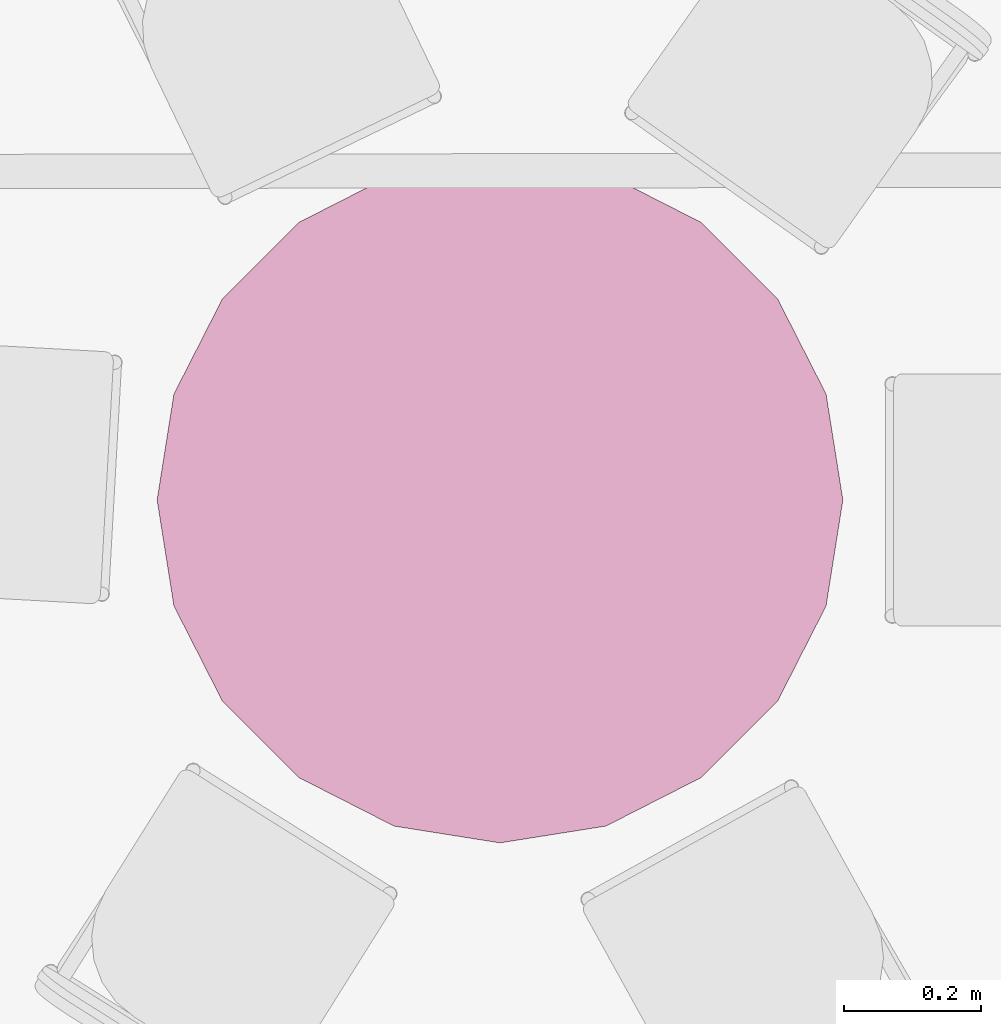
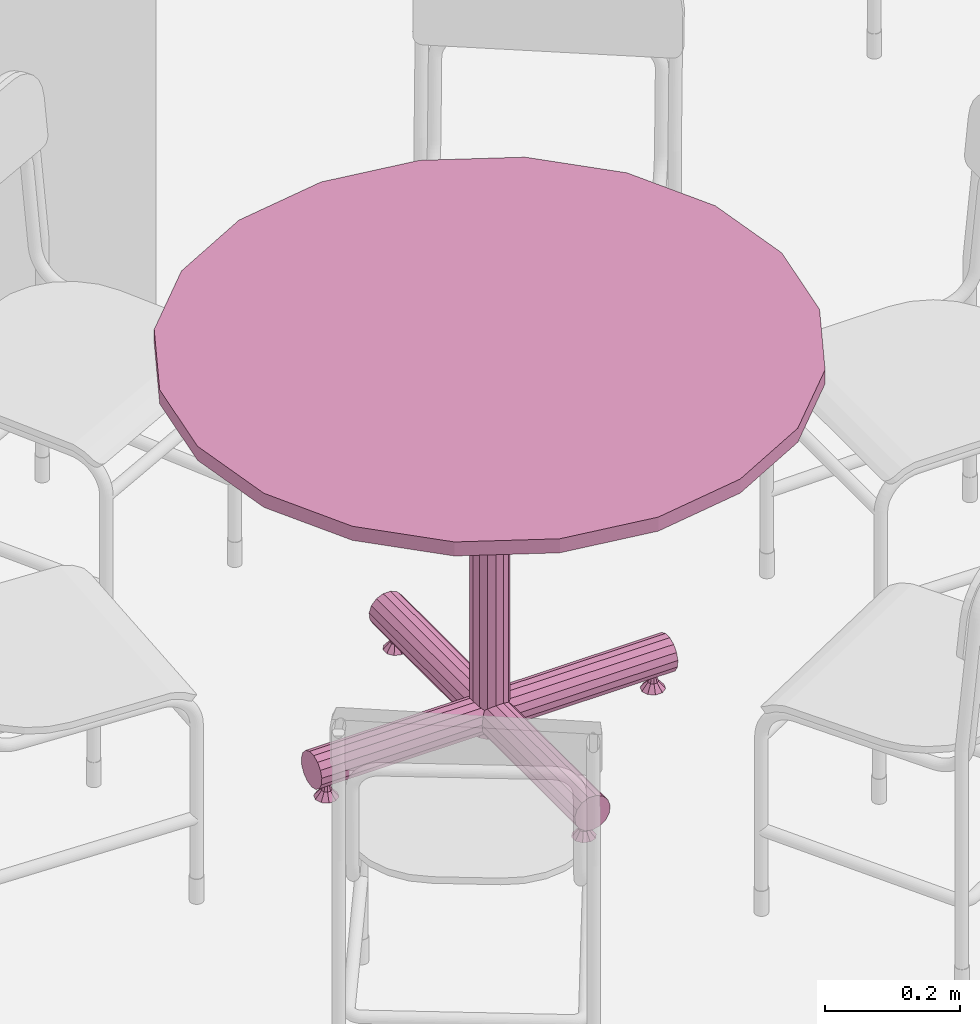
# One storey, part 274 of 301: 1 furnishing.
"""IFC2X3 building model written with IfcOpenShell, lengths in millimetres."""

from ifc_helpers import new_model, entity, si_unit, converted_unit, derived_unit, money_unit, direction, frame, origin_with_axes, place, context, subcontext, project, spatial, open_shell, faceted_brep, surface_model, source, transform, mapped, type_object, element, save


model = new_model("IFC2X3")

# Units and contexts
model_context = context("Model", 3, precision=0.01, world=origin_with_axes(), true_north=direction((0.0, 1.0)))
body_context = subcontext(model_context, "Body", "Model", "MODEL_VIEW")
ifc_project = project(units=[si_unit("LENGTHUNIT", "METRE", prefix="MILLI"), si_unit("AREAUNIT", "SQUARE_METRE"), si_unit("VOLUMEUNIT", "CUBIC_METRE"), converted_unit("PLANEANGLEUNIT", "DEGREE", entity("IfcPlaneAngleMeasure", 0.0174532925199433), si_unit("PLANEANGLEUNIT", "RADIAN"), dimensions=[0, 0, 0, 0, 0, 0, 0]), money_unit("EUR"), converted_unit("TIMEUNIT", "Year", entity("IfcTimeMeasure", 31557600.0), si_unit("TIMEUNIT", "SECOND"), dimensions=[0, 0, 1, 0, 0, 0, 0]), si_unit("MASSUNIT", "GRAM", prefix="KILO"), si_unit("THERMODYNAMICTEMPERATUREUNIT", "DEGREE_CELSIUS"), si_unit("LUMINOUSINTENSITYUNIT", "LUMEN"), si_unit("ENERGYUNIT", "JOULE", prefix="MEGA"), derived_unit("THERMALCONDUCTANCEUNIT", [(si_unit("POWERUNIT", "WATT"), 1), (si_unit("LENGTHUNIT", "METRE"), -1), (si_unit("THERMODYNAMICTEMPERATUREUNIT", "KELVIN"), -1)]), derived_unit("SPECIFICHEATCAPACITYUNIT", [(si_unit("ENERGYUNIT", "JOULE"), 1), (si_unit("MASSUNIT", "GRAM", prefix="KILO"), -1), (si_unit("THERMODYNAMICTEMPERATUREUNIT", "KELVIN"), -1)]), derived_unit("MASSDENSITYUNIT", [(si_unit("MASSUNIT", "GRAM", prefix="KILO"), 1), (si_unit("VOLUMEUNIT", "CUBIC_METRE"), -1)])], contexts=[model_context])

# Site, building, storey
site_placement = place(None, frame((0.0, 0.0, 8650.0), z_axis=(0.0, 0.0, 1.0), x_axis=(1.0, 0.0, 0.0)))
site = spatial("IfcSite", under=ifc_project, at=site_placement, Name="43301:001:0844", CompositionType="ELEMENT")
building_placement = place(site_placement, origin_with_axes())
building = spatial("IfcBuilding", under=site, at=building_placement, Name="Kuressaare Ametikooli tuulikute mehaanikute õppekorpus", CompositionType="ELEMENT")
storey_placement = place(building_placement, origin_with_axes())
storey = spatial("IfcBuildingStorey", under=building, at=storey_placement, Name="1.korrus", CompositionType="ELEMENT", Elevation=0.0)

# Furnishing
furniture_type = type_object("IfcFurnitureType", Name="Round Table 02 27", AssemblyPlace="NOTDEFINED")
shared_shape = source(origin_with_axes(), body_context, "Body", "SurfaceModel", [
    faceted_brep([(294.8117737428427, -11.19730905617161, 0.0), (298.45, 0.0, 0.0), (287.8666666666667, 0.0, 12.7), (286.2496772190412, -4.976581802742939, 12.7), (285.2867737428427, -18.11762663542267, 0.0), (273.5132262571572, -18.11762663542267, 0.0), (263.9882262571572, -11.19730905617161, 0.0), (260.35, 0.0, 0.0), (263.9882262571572, 11.19730905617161, 0.0), (273.5132262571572, 18.11762663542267, 0.0), (285.2867737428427, 18.11762663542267, 0.0), (294.8117737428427, 11.19730905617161, 0.0), (286.2496772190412, 4.976581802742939, 12.7), (282.0163438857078, 8.052278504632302, 12.7), (276.7836561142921, 8.052278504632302, 12.7), (272.5503227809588, 4.976581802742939, 12.7), (270.9333333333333, 0.0, 12.7), (272.5503227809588, -4.976581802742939, 12.7), (276.7836561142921, -8.052278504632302, 12.7), (282.0163438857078, -8.052278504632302, 12.7)], [[[0, 1, 2, 3]], [[0, 4, 5, 6, 7, 8, 9, 10, 11, 1]], [[1, 11, 12, 2]], [[3, 2, 12, 13, 14, 15, 16, 17, 18, 19]], [[4, 0, 3, 19]], [[5, 4, 19, 18]], [[6, 5, 18, 17]], [[7, 6, 17, 16]], [[8, 7, 16, 15]], [[9, 8, 15, 14]], [[10, 9, 14, 13]], [[11, 10, 13, 12]]]),
    faceted_brep([(286.2496772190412, -4.976581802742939, 12.7), (287.8666666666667, 0.0, 12.7), (284.48, 0.0, 25.4), (283.5098063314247, -2.985949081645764, 25.4), (282.0163438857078, -8.052278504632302, 12.7), (276.7836561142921, -8.052278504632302, 12.7), (272.5503227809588, -4.976581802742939, 12.7), (270.9333333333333, 0.0, 12.7), (272.5503227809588, 4.976581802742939, 12.7), (276.7836561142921, 8.052278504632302, 12.7), (282.0163438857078, 8.052278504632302, 12.7), (286.2496772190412, 4.976581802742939, 12.7), (283.5098063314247, 2.985949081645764, 25.4), (280.9698063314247, 4.831367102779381, 25.4), (277.8301936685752, 4.831367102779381, 25.4), (275.2901936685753, 2.985949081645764, 25.4), (274.32, 0.0, 25.4), (275.2901936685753, -2.985949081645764, 25.4), (277.8301936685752, -4.831367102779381, 25.4), (280.9698063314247, -4.831367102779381, 25.4)], [[[0, 1, 2, 3]], [[0, 4, 5, 6, 7, 8, 9, 10, 11, 1]], [[1, 11, 12, 2]], [[3, 2, 12, 13, 14, 15, 16, 17, 18, 19]], [[4, 0, 3, 19]], [[5, 4, 19, 18]], [[6, 5, 18, 17]], [[7, 6, 17, 16]], [[8, 7, 16, 15]], [[9, 8, 15, 14]], [[10, 9, 14, 13]], [[11, 10, 13, 12]]]),
    faceted_brep([(11.19730905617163, 294.8117737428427, 0.0), (0.0, 298.45, 0.0), (0.0, 287.8666666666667, 12.7), (4.976581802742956, 286.2496772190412, 12.7), (18.11762663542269, 285.2867737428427, 0.0), (18.11762663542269, 273.5132262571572, 0.0), (11.19730905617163, 263.9882262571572, 0.0), (0.0, 260.35, 0.0), (-11.1973090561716, 263.9882262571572, 0.0), (-18.11762663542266, 273.5132262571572, 0.0), (-18.11762663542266, 285.2867737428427, 0.0), (-11.19730905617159, 294.8117737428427, 0.0), (-4.976581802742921, 286.2496772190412, 12.7), (-8.052278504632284, 282.0163438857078, 12.7), (-8.052278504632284, 276.7836561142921, 12.7), (-4.976581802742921, 272.5503227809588, 12.7), (0.0, 270.9333333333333, 12.7), (4.976581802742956, 272.5503227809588, 12.7), (8.052278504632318, 276.7836561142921, 12.7), (8.052278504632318, 282.0163438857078, 12.7)], [[[0, 1, 2, 3]], [[0, 4, 5, 6, 7, 8, 9, 10, 11, 1]], [[1, 11, 12, 2]], [[3, 2, 12, 13, 14, 15, 16, 17, 18, 19]], [[4, 0, 3, 19]], [[5, 4, 19, 18]], [[6, 5, 18, 17]], [[7, 6, 17, 16]], [[8, 7, 16, 15]], [[9, 8, 15, 14]], [[10, 9, 14, 13]], [[11, 10, 13, 12]]]),
    faceted_brep([(4.976581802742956, 286.2496772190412, 12.7), (0.0, 287.8666666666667, 12.7), (0.0, 284.48, 25.4), (2.985949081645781, 283.5098063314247, 25.4), (8.052278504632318, 282.0163438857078, 12.7), (8.052278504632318, 276.7836561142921, 12.7), (4.976581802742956, 272.5503227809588, 12.7), (0.0, 270.9333333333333, 12.7), (-4.976581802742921, 272.5503227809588, 12.7), (-8.052278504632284, 276.7836561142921, 12.7), (-8.052278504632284, 282.0163438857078, 12.7), (-4.976581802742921, 286.2496772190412, 12.7), (-2.985949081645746, 283.5098063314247, 25.4), (-4.831367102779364, 280.9698063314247, 25.4), (-4.831367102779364, 277.8301936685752, 25.4), (-2.985949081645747, 275.2901936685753, 25.4), (0.0, 274.32, 25.4), (2.98594908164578, 275.2901936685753, 25.4), (4.831367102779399, 277.8301936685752, 25.4), (4.831367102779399, 280.9698063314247, 25.4)], [[[0, 1, 2, 3]], [[0, 4, 5, 6, 7, 8, 9, 10, 11, 1]], [[1, 11, 12, 2]], [[3, 2, 12, 13, 14, 15, 16, 17, 18, 19]], [[4, 0, 3, 19]], [[5, 4, 19, 18]], [[6, 5, 18, 17]], [[7, 6, 17, 16]], [[8, 7, 16, 15]], [[9, 8, 15, 14]], [[10, 9, 14, 13]], [[11, 10, 13, 12]]]),
    faceted_brep([(-294.8117737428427, 11.19730905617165, 0.0), (-298.45, 0.0, 0.0), (-287.8666666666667, 0.0, 12.7), (-286.2496772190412, 4.976581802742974, 12.7), (-285.2867737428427, 18.11762663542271, 0.0), (-273.5132262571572, 18.11762663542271, 0.0), (-263.9882262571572, 11.19730905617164, 0.0), (-260.35, 0.0, 0.0), (-263.9882262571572, -11.19730905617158, 0.0), (-273.5132262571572, -18.11762663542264, 0.0), (-285.2867737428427, -18.11762663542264, 0.0), (-294.8117737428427, -11.19730905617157, 0.0), (-286.2496772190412, -4.976581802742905, 12.7), (-282.0163438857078, -8.052278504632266, 12.7), (-276.7836561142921, -8.052278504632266, 12.7), (-272.5503227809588, -4.976581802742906, 12.7), (-270.9333333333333, 0.0, 12.7), (-272.5503227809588, 4.976581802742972, 12.7), (-276.7836561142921, 8.052278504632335, 12.7), (-282.0163438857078, 8.052278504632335, 12.7)], [[[0, 1, 2, 3]], [[0, 4, 5, 6, 7, 8, 9, 10, 11, 1]], [[1, 11, 12, 2]], [[3, 2, 12, 13, 14, 15, 16, 17, 18, 19]], [[4, 0, 3, 19]], [[5, 4, 19, 18]], [[6, 5, 18, 17]], [[7, 6, 17, 16]], [[8, 7, 16, 15]], [[9, 8, 15, 14]], [[10, 9, 14, 13]], [[11, 10, 13, 12]]]),
    faceted_brep([(-286.2496772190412, 4.976581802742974, 12.7), (-287.8666666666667, 0.0, 12.7), (-284.48, 0.0, 25.4), (-283.5098063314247, 2.985949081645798, 25.4), (-282.0163438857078, 8.052278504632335, 12.7), (-276.7836561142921, 8.052278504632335, 12.7), (-272.5503227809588, 4.976581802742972, 12.7), (-270.9333333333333, 0.0, 12.7), (-272.5503227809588, -4.976581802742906, 12.7), (-276.7836561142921, -8.052278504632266, 12.7), (-282.0163438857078, -8.052278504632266, 12.7), (-286.2496772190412, -4.976581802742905, 12.7), (-283.5098063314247, -2.985949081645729, 25.4), (-280.9698063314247, -4.831367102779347, 25.4), (-277.8301936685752, -4.831367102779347, 25.4), (-275.2901936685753, -2.98594908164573, 25.4), (-274.32, 0.0, 25.4), (-275.2901936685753, 2.985949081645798, 25.4), (-277.8301936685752, 4.831367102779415, 25.4), (-280.9698063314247, 4.831367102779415, 25.4)], [[[0, 1, 2, 3]], [[0, 4, 5, 6, 7, 8, 9, 10, 11, 1]], [[1, 11, 12, 2]], [[3, 2, 12, 13, 14, 15, 16, 17, 18, 19]], [[4, 0, 3, 19]], [[5, 4, 19, 18]], [[6, 5, 18, 17]], [[7, 6, 17, 16]], [[8, 7, 16, 15]], [[9, 8, 15, 14]], [[10, 9, 14, 13]], [[11, 10, 13, 12]]]),
    faceted_brep([(-11.19730905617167, -294.8117737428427, 0.0), (0.0, -298.45, 0.0), (0.0, -287.8666666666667, 12.7), (-4.976581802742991, -286.2496772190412, 12.7), (-18.11762663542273, -285.2867737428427, 0.0), (-18.11762663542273, -273.5132262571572, 0.0), (-11.19730905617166, -263.9882262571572, 0.0), (0.0, -260.35, 0.0), (11.19730905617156, -263.9882262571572, 0.0), (18.11762663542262, -273.5132262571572, 0.0), (18.11762663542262, -285.2867737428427, 0.0), (11.19730905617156, -294.8117737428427, 0.0), (4.976581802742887, -286.2496772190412, 12.7), (8.052278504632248, -282.0163438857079, 12.7), (8.052278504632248, -276.7836561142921, 12.7), (4.976581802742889, -272.5503227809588, 12.7), (0.0, -270.9333333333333, 12.7), (-4.976581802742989, -272.5503227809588, 12.7), (-8.052278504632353, -276.7836561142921, 12.7), (-8.052278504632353, -282.0163438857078, 12.7)], [[[0, 1, 2, 3]], [[0, 4, 5, 6, 7, 8, 9, 10, 11, 1]], [[1, 11, 12, 2]], [[3, 2, 12, 13, 14, 15, 16, 17, 18, 19]], [[4, 0, 3, 19]], [[5, 4, 19, 18]], [[6, 5, 18, 17]], [[7, 6, 17, 16]], [[8, 7, 16, 15]], [[9, 8, 15, 14]], [[10, 9, 14, 13]], [[11, 10, 13, 12]]]),
    faceted_brep([(-4.976581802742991, -286.2496772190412, 12.7), (0.0, -287.8666666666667, 12.7), (0.0, -284.48, 25.4), (-2.985949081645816, -283.5098063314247, 25.4), (-8.052278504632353, -282.0163438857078, 12.7), (-8.052278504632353, -276.7836561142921, 12.7), (-4.976581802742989, -272.5503227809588, 12.7), (0.0, -270.9333333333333, 12.7), (4.976581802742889, -272.5503227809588, 12.7), (8.052278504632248, -276.7836561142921, 12.7), (8.052278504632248, -282.0163438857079, 12.7), (4.976581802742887, -286.2496772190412, 12.7), (2.985949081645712, -283.5098063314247, 25.4), (4.83136710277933, -280.9698063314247, 25.4), (4.83136710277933, -277.8301936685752, 25.4), (2.985949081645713, -275.2901936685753, 25.4), (0.0, -274.32, 25.4), (-2.985949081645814, -275.2901936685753, 25.4), (-4.831367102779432, -277.8301936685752, 25.4), (-4.831367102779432, -280.9698063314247, 25.4)], [[[0, 1, 2, 3]], [[0, 4, 5, 6, 7, 8, 9, 10, 11, 1]], [[1, 11, 12, 2]], [[3, 2, 12, 13, 14, 15, 16, 17, 18, 19]], [[4, 0, 3, 19]], [[5, 4, 19, 18]], [[6, 5, 18, 17]], [[7, 6, 17, 16]], [[8, 7, 16, 15]], [[9, 8, 15, 14]], [[10, 9, 14, 13]], [[11, 10, 13, 12]]]),
    surface_model("IfcShellBasedSurfaceModel", [(27.84486554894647, -12.3973328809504, 28.03513445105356), (30.48, 0.0, 25.40000000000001), (304.8, 0.0, 25.40000000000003), (304.8, -12.3973328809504, 28.03513445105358), (27.84486554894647, 12.39733288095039, 28.03513445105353), (304.8, 12.39733288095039, 28.03513445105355), (304.8, 22.65105428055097, 35.48489911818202), (304.8, 28.98820261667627, 46.46116201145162), (304.8, 30.31302737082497, 59.06602756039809), (304.8, 26.39645430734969, 71.12), (304.8, 17.91569448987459, 80.5388379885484), (304.8, 6.337148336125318, 85.6939388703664), (304.8, -6.337148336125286, 85.6939388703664), (304.8, -17.91569448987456, 80.53883798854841), (304.8, -26.39645430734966, 71.12000000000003), (304.8, -30.31302737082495, 59.06602756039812), (304.8, -28.98820261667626, 46.46116201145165), (304.8, -22.65105428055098, 35.48489911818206), (21.34442362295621, -21.3444236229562, 34.53557637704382), (22.65105428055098, -22.65105428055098, 35.48489911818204), (21.34442362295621, 21.34442362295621, 34.5355763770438), (22.65105428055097, 22.65105428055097, 35.48489911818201), (28.98820261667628, 28.98820261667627, 46.4611620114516), (30.31302737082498, 30.31302737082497, 59.06602756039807), (26.39645430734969, 26.39645430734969, 71.11999999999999), (21.1105696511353, 21.1105696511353, 76.99056965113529), (24.65883798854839, 17.91569448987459, 80.53883798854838), (29.81393887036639, 6.337148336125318, 85.69393887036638), (29.8139388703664, -6.337148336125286, 85.69393887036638), (24.65883798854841, -17.91569448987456, 80.53883798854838), (21.1105696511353, -21.1105696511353, 76.99056965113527), (26.39645430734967, -26.39645430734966, 71.12), (30.31302737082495, -30.31302737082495, 59.0660275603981), (28.98820261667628, -28.98820261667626, 46.46116201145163)], [open_shell([[[0, 1, 2, 3]], [[1, 4, 5, 2]], [[3, 2, 5, 6, 7, 8, 9, 10, 11, 12, 13, 14, 15, 16, 17]], [[18, 0, 3, 17, 19]], [[4, 20, 21, 6, 5]], [[22, 7, 6, 21]], [[23, 8, 7, 22]], [[24, 9, 8, 23]], [[25, 26, 10, 9, 24]], [[26, 27, 11, 10]], [[27, 28, 12, 11]], [[28, 29, 13, 12]], [[29, 30, 31, 14, 13]], [[32, 15, 14, 31]], [[33, 16, 15, 32]], [[19, 17, 16, 33]]])]),
    surface_model("IfcShellBasedSurfaceModel", [(12.3973328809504, 27.84486554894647, 28.03513445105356), (0.0, 30.48, 25.40000000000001), (0.0, 304.8, 25.40000000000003), (12.39733288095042, 304.8, 28.03513445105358), (-12.39733288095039, 27.84486554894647, 28.03513445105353), (-12.39733288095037, 304.8, 28.03513445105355), (-22.65105428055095, 304.8, 35.48489911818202), (-28.98820261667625, 304.8, 46.46116201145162), (-30.31302737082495, 304.8, 59.06602756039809), (-26.39645430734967, 304.8, 71.12), (-17.91569448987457, 304.8, 80.5388379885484), (-6.337148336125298, 304.8, 85.6939388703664), (6.337148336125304, 304.8, 85.6939388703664), (17.91569448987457, 304.8, 80.53883798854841), (26.39645430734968, 304.8, 71.12000000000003), (30.31302737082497, 304.8, 59.06602756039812), (28.98820261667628, 304.8, 46.46116201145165), (22.65105428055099, 304.8, 35.48489911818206), (21.3444236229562, 21.34442362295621, 34.53557637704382), (22.65105428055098, 22.65105428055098, 35.48489911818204), (-21.34442362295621, 21.34442362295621, 34.5355763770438), (-22.65105428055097, 22.65105428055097, 35.48489911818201), (-28.98820261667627, 28.98820261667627, 46.4611620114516), (-30.31302737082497, 30.31302737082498, 59.06602756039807), (-26.39645430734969, 26.39645430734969, 71.11999999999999), (-21.1105696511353, 21.1105696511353, 76.99056965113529), (-17.91569448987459, 24.65883798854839, 80.53883798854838), (-6.337148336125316, 29.81393887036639, 85.69393887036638), (6.337148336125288, 29.8139388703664, 85.69393887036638), (17.91569448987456, 24.65883798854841, 80.53883798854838), (21.1105696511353, 21.1105696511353, 76.99056965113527), (26.39645430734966, 26.39645430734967, 71.12), (30.31302737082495, 30.31302737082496, 59.0660275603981), (28.98820261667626, 28.98820261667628, 46.46116201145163)], [open_shell([[[0, 1, 2, 3]], [[1, 4, 5, 2]], [[3, 2, 5, 6, 7, 8, 9, 10, 11, 12, 13, 14, 15, 16, 17]], [[18, 0, 3, 17, 19]], [[4, 20, 21, 6, 5]], [[22, 7, 6, 21]], [[23, 8, 7, 22]], [[24, 9, 8, 23]], [[25, 26, 10, 9, 24]], [[26, 27, 11, 10]], [[27, 28, 12, 11]], [[28, 29, 13, 12]], [[29, 30, 31, 14, 13]], [[32, 15, 14, 31]], [[33, 16, 15, 32]], [[19, 17, 16, 33]]])]),
    surface_model("IfcShellBasedSurfaceModel", [(-27.84486554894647, 12.39733288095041, 28.03513445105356), (-30.48, 0.0, 25.40000000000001), (-304.8, 0.0, 25.40000000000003), (-304.8, 12.39733288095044, 28.03513445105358), (-27.84486554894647, -12.39733288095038, 28.03513445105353), (-304.8, -12.39733288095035, 28.03513445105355), (-304.8, -22.65105428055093, 35.48489911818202), (-304.8, -28.98820261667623, 46.46116201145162), (-304.8, -30.31302737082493, 59.06602756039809), (-304.8, -26.39645430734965, 71.12), (-304.8, -17.91569448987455, 80.5388379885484), (-304.8, -6.337148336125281, 85.6939388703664), (-304.8, 6.337148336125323, 85.6939388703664), (-304.8, 17.9156944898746, 80.53883798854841), (-304.8, 26.3964543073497, 71.12000000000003), (-304.8, 30.31302737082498, 59.06602756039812), (-304.8, 28.9882026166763, 46.46116201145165), (-304.8, 22.65105428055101, 35.48489911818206), (-21.3444236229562, 21.34442362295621, 34.53557637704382), (-22.65105428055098, 22.65105428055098, 35.48489911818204), (-21.34442362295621, -21.3444236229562, 34.5355763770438), (-22.65105428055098, -22.65105428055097, 35.48489911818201), (-28.98820261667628, -28.98820261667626, 46.4611620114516), (-30.31302737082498, -30.31302737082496, 59.06602756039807), (-26.3964543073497, -26.39645430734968, 71.11999999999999), (-21.11056965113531, -21.11056965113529, 76.99056965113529), (-24.65883798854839, -17.91569448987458, 80.53883798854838), (-29.81393887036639, -6.337148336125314, 85.69393887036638), (-29.8139388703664, 6.337148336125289, 85.69393887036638), (-24.65883798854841, 17.91569448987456, 80.53883798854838), (-21.1105696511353, 21.1105696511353, 76.99056965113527), (-26.39645430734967, 26.39645430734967, 71.12), (-30.31302737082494, 30.31302737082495, 59.0660275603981), (-28.98820261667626, 28.98820261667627, 46.46116201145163)], [open_shell([[[0, 1, 2, 3]], [[1, 4, 5, 2]], [[3, 2, 5, 6, 7, 8, 9, 10, 11, 12, 13, 14, 15, 16, 17]], [[18, 0, 3, 17, 19]], [[4, 20, 21, 6, 5]], [[22, 7, 6, 21]], [[23, 8, 7, 22]], [[24, 9, 8, 23]], [[25, 26, 10, 9, 24]], [[26, 27, 11, 10]], [[27, 28, 12, 11]], [[28, 29, 13, 12]], [[29, 30, 31, 14, 13]], [[32, 15, 14, 31]], [[33, 16, 15, 32]], [[19, 17, 16, 33]]])]),
    surface_model("IfcShellBasedSurfaceModel", [(-12.39733288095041, -27.84486554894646, 28.03513445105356), (0.0, -30.48, 25.40000000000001), (0.0, -304.8, 25.40000000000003), (-12.39733288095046, -304.8, 28.03513445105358), (12.39733288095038, -27.84486554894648, 28.03513445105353), (12.39733288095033, -304.8, 28.03513445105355), (22.65105428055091, -304.8, 35.48489911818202), (28.98820261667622, -304.8, 46.46116201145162), (30.31302737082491, -304.8, 59.06602756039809), (26.39645430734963, -304.8, 71.12), (17.91569448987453, -304.8, 80.5388379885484), (6.337148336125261, -304.8, 85.6939388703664), (-6.337148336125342, -304.8, 85.6939388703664), (-17.91569448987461, -304.8, 80.53883798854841), (-26.39645430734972, -304.8, 71.12000000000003), (-30.313027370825, -304.8, 59.06602756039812), (-28.98820261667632, -304.8, 46.46116201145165), (-22.65105428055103, -304.8, 35.48489911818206), (-21.34442362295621, -21.3444236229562, 34.53557637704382), (-22.65105428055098, -22.65105428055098, 35.48489911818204), (21.3444236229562, -21.34442362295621, 34.5355763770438), (22.65105428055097, -22.65105428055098, 35.48489911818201), (28.98820261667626, -28.98820261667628, 46.4611620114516), (30.31302737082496, -30.31302737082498, 59.06602756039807), (26.39645430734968, -26.3964543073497, 71.11999999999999), (21.11056965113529, -21.11056965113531, 76.99056965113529), (17.91569448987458, -24.65883798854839, 80.53883798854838), (6.337148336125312, -29.81393887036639, 85.69393887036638), (-6.33714833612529, -29.8139388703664, 85.69393887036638), (-17.91569448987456, -24.65883798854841, 80.53883798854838), (-21.1105696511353, -21.1105696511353, 76.99056965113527), (-26.39645430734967, -26.39645430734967, 71.12), (-30.31302737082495, -30.31302737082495, 59.0660275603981), (-28.98820261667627, -28.98820261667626, 46.46116201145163)], [open_shell([[[0, 1, 2, 3]], [[1, 4, 5, 2]], [[3, 2, 5, 6, 7, 8, 9, 10, 11, 12, 13, 14, 15, 16, 17]], [[18, 0, 3, 17, 19]], [[4, 20, 21, 6, 5]], [[22, 7, 6, 21]], [[23, 8, 7, 22]], [[24, 9, 8, 23]], [[25, 26, 10, 9, 24]], [[26, 27, 11, 10]], [[27, 28, 12, 11]], [[28, 29, 13, 12]], [[29, 30, 31, 14, 13]], [[32, 15, 14, 31]], [[33, 16, 15, 32]], [[19, 17, 16, 33]]])]),
    faceted_brep([(27.84486554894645, -12.3973328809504, 25.4), (20.39510088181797, -22.65105428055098, 25.4), (9.418837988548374, -28.98820261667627, 25.4), (-3.186027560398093, -30.31302737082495, 25.4), (-15.24000000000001, -26.39645430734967, 25.4), (-24.65883798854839, -17.91569448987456, 25.4), (-29.81393887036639, -6.337148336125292, 25.4), (-29.81393887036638, 6.337148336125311, 25.4), (-24.65883798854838, 17.91569448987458, 25.4), (-15.23999999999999, 26.39645430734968, 25.4), (-3.186027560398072, 30.31302737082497, 25.4), (9.418837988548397, 28.98820261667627, 25.4), (20.39510088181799, 22.65105428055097, 25.4), (27.84486554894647, 12.39733288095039, 25.4), (30.48, 0.0, 25.4), (27.84486554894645, -12.3973328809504, 684.6), (20.39510088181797, -22.65105428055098, 684.6), (9.418837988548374, -28.98820261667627, 684.6), (-3.186027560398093, -30.31302737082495, 684.6), (-15.24000000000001, -26.39645430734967, 684.6), (-24.65883798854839, -17.91569448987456, 684.6), (-29.81393887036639, -6.337148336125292, 684.6), (-29.81393887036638, 6.337148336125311, 684.6), (-24.65883798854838, 17.91569448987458, 684.6), (-15.23999999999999, 26.39645430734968, 684.6), (-3.186027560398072, 30.31302737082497, 684.6), (9.418837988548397, 28.98820261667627, 684.6), (20.39510088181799, 22.65105428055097, 684.6), (27.84486554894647, 12.39733288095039, 684.6), (30.48, 0.0, 684.6)], [[[0, 1, 2, 3, 4, 5, 6, 7, 8, 9, 10, 11, 12, 13, 14]], [[1, 0, 15, 16]], [[2, 1, 16, 17]], [[3, 2, 17, 18]], [[4, 3, 18, 19]], [[5, 4, 19, 20]], [[6, 5, 20, 21]], [[7, 6, 21, 22]], [[8, 7, 22, 23]], [[9, 8, 23, 24]], [[10, 9, 24, 25]], [[11, 10, 25, 26]], [[12, 11, 26, 27]], [[13, 12, 27, 28]], [[14, 13, 28, 29]], [[0, 14, 29, 15]], [[15, 29, 28, 27, 26, 25, 24, 23, 22, 21, 20, 19, 18, 17, 16]]]),
    faceted_brep([(475.5282581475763, -154.5084971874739, 684.6), (404.5084971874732, -293.8926261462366, 684.6), (293.8926261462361, -404.5084971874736, 684.6), (154.5084971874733, -475.5282581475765, 684.6), (0.0, -499.9999999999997, 684.6), (-154.5084971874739, -475.5282581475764, 684.6), (-293.8926261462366, -404.5084971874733, 684.6), (-404.5084971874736, -293.8926261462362, 684.6), (-475.5282581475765, -154.5084971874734, 684.6), (-499.9999999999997, 0.0, 684.6), (-475.5282581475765, 154.5084971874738, 684.6), (-404.5084971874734, 293.8926261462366, 684.6), (-293.8926261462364, 404.5084971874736, 684.6), (-154.5084971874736, 475.5282581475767, 684.6), (0.0, 499.9999999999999, 684.6), (154.5084971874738, 475.5282581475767, 684.6), (293.8926261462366, 404.5084971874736, 684.6), (404.5084971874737, 293.8926261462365, 684.6), (475.5282581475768, 154.5084971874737, 684.6), (500.0, 0.0, 684.6), (475.5282581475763, -154.5084971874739, 710.0), (404.5084971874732, -293.8926261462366, 710.0), (293.8926261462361, -404.5084971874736, 710.0), (154.5084971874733, -475.5282581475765, 710.0), (0.0, -499.9999999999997, 710.0), (-154.5084971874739, -475.5282581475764, 710.0), (-293.8926261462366, -404.5084971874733, 710.0), (-404.5084971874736, -293.8926261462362, 710.0), (-475.5282581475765, -154.5084971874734, 710.0), (-499.9999999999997, 0.0, 710.0), (-475.5282581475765, 154.5084971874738, 710.0), (-404.5084971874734, 293.8926261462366, 710.0), (-293.8926261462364, 404.5084971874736, 710.0), (-154.5084971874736, 475.5282581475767, 710.0), (0.0, 499.9999999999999, 710.0), (154.5084971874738, 475.5282581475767, 710.0), (293.8926261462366, 404.5084971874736, 710.0), (404.5084971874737, 293.8926261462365, 710.0), (475.5282581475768, 154.5084971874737, 710.0), (500.0, 0.0, 710.0)], [[[0, 1, 2, 3, 4, 5, 6, 7, 8, 9, 10, 11, 12, 13, 14, 15, 16, 17, 18, 19]], [[1, 0, 20, 21]], [[2, 1, 21, 22]], [[3, 2, 22, 23]], [[4, 3, 23, 24]], [[5, 4, 24, 25]], [[6, 5, 25, 26]], [[7, 6, 26, 27]], [[8, 7, 27, 28]], [[9, 8, 28, 29]], [[10, 9, 29, 30]], [[11, 10, 30, 31]], [[12, 11, 31, 32]], [[13, 12, 32, 33]], [[14, 13, 33, 34]], [[15, 14, 34, 35]], [[16, 15, 35, 36]], [[17, 16, 36, 37]], [[18, 17, 37, 38]], [[19, 18, 38, 39]], [[0, 19, 39, 20]], [[20, 39, 38, 37, 36, 35, 34, 33, 32, 31, 30, 29, 28, 27, 26, 25, 24, 23, 22, 21]]]),
])
furnishing_placement = place(storey_placement, frame((126076.0903674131, 27122.75347813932, 0.0), z_axis=(0.0, 0.0, 1.0), x_axis=(0.0, 1.0, 0.0)))
element("IfcFurnishingElement", 1, at=furnishing_placement, inside=storey, type_object=furniture_type, Name="L1", context=body_context, shape_type="MappedRepresentation", body=[
    mapped(shared_shape, transform((0.0, 0.0, 0.0))),
])

save(model, "model.ifc")
